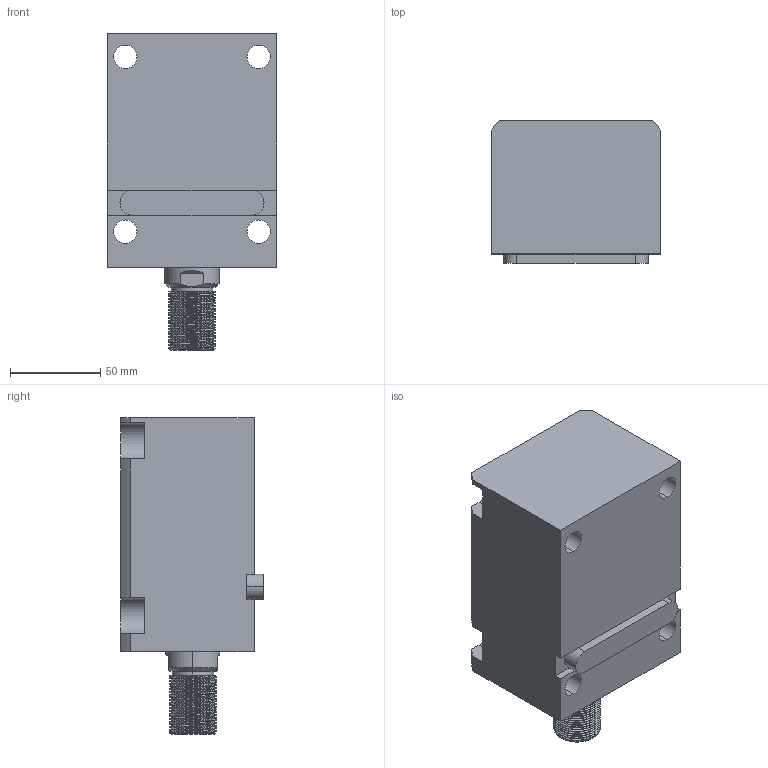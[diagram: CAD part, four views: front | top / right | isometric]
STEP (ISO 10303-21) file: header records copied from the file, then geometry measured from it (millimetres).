
FILE_DESCRIPTION (( 'STEP AP203' ), '1' );
FILE_NAME ('CHTB-LA50-70W.STEP', '2018-05-18T01:45:32', ( '' ), ( '' ), 'SwSTEP 2.0', 'SolidWorks 2015', '' );
FILE_SCHEMA (( 'CONFIG_CONTROL_DESIGN' ));
Length unit declared in the file: millimetre
Products named in the file (4): 掛极LA50-70W; CHTB-LA50-70W; CHTM-SDMA50QG; 活塞杆LA50-70W
Assembly tree (3 placements, depth 2):
  CHTB-LA50-70W
    掛极LA50-70W
    活塞杆LA50-70W
    CHTM-SDMA50QG
Bounding box: 94 x 79 x 176 mm (x, y, z)
Volume: 785980.1 mm3; surface area: 127530 mm2
Topology: 3 solids, 3 shells, 244 faces, 670 edges, 447 vertices
Faces by surface type: cylinder 136, plane 55, cone 21, bspline 16, torus 16
Entity records: 15046 total; most frequent: CARTESIAN_POINT 8903, ORIENTED_EDGE 1332, DIRECTION 1073, EDGE_CURVE 666, VERTEX_POINT 447, AXIS2_PLACEMENT_3D 416, EDGE_LOOP 277, ADVANCED_FACE 244
